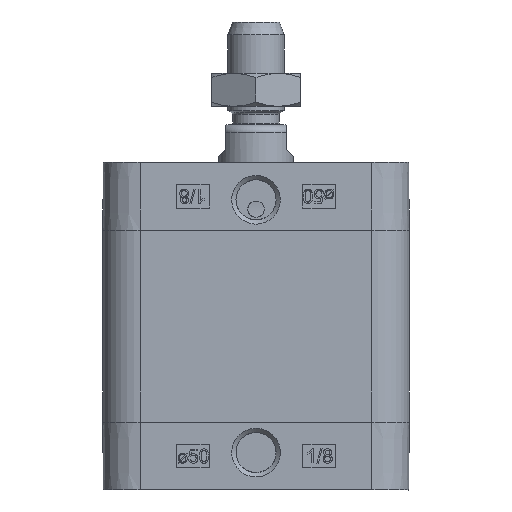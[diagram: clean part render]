
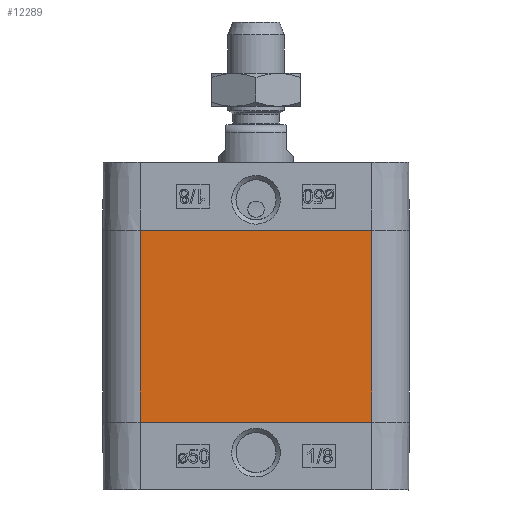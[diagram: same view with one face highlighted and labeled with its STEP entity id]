
A CAD part, left-side view. The second image highlights one B-rep face of the part: STEP entity #12289.
In plain terms, the highlighted planar face has unit normal (-1, 0, 0).
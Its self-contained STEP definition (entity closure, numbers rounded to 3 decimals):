
#1292=ORIENTED_EDGE('',*,*,#4937,.T.);
#1293=ORIENTED_EDGE('',*,*,#4936,.F.);
#1294=ORIENTED_EDGE('',*,*,#4938,.T.);
#1295=ORIENTED_EDGE('',*,*,#4939,.T.);
#4936=EDGE_CURVE('',#6758,#6757,#8004,.T.);
#4937=EDGE_CURVE('',#6759,#6757,#8005,.T.);
#4938=EDGE_CURVE('',#6758,#6760,#8006,.T.);
#4939=EDGE_CURVE('',#6760,#6759,#8007,.T.);
#6757=VERTEX_POINT('',#22293);
#6758=VERTEX_POINT('',#22295);
#6759=VERTEX_POINT('',#22299);
#6760=VERTEX_POINT('',#22301);
#8004=LINE('',#22296,#9026);
#8005=LINE('',#22298,#9027);
#8006=LINE('',#22300,#9028);
#8007=LINE('',#22302,#9029);
#9026=VECTOR('',#18922,1000.);
#9027=VECTOR('',#18925,1000.);
#9028=VECTOR('',#18926,1000.);
#9029=VECTOR('',#18927,1000.);
#10041=EDGE_LOOP('',(#1292,#1293,#1294,#1295));
#10993=FACE_BOUND('',#10041,.T.);
#11942=PLANE('',#17725);
#12289=ADVANCED_FACE('',(#10993),#11942,.T.);
#17725=AXIS2_PLACEMENT_3D('',#22297,#18923,#18924);
#18922=DIRECTION('',(0.,0.,1.));
#18923=DIRECTION('',(-1.,0.,0.));
#18924=DIRECTION('',(0.,0.,1.));
#18925=DIRECTION('',(0.,1.,0.));
#18926=DIRECTION('',(0.,-1.,0.));
#18927=DIRECTION('',(0.,0.,1.));
#22293=CARTESIAN_POINT('',(-32.75,24.75,41.));
#22295=CARTESIAN_POINT('',(-32.75,24.75,0.));
#22296=CARTESIAN_POINT('',(-32.75,24.75,0.));
#22297=CARTESIAN_POINT('',(-32.75,-24.75,0.));
#22298=CARTESIAN_POINT('',(-32.75,-24.75,41.));
#22299=CARTESIAN_POINT('',(-32.75,-24.75,41.));
#22300=CARTESIAN_POINT('',(-32.75,24.75,0.));
#22301=CARTESIAN_POINT('',(-32.75,-24.75,0.));
#22302=CARTESIAN_POINT('',(-32.75,-24.75,0.));
